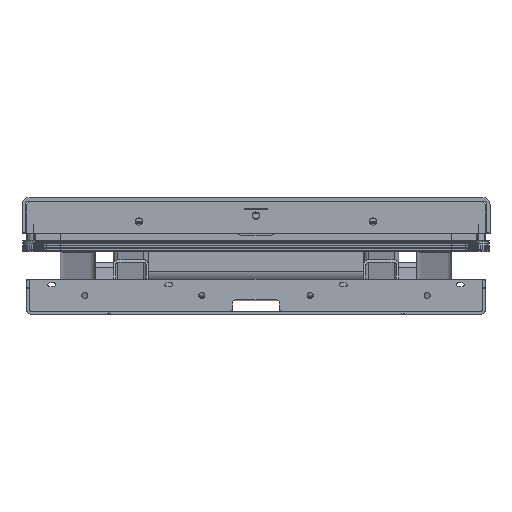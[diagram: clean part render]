
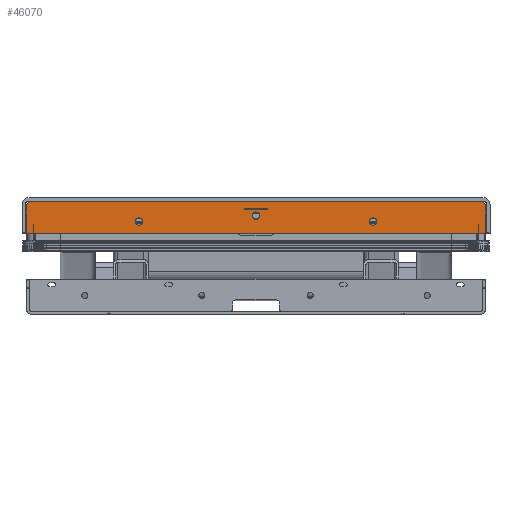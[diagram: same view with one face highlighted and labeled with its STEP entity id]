
A CAD part, front view. The second image highlights one B-rep face of the part: STEP entity #46070.
In plain terms, the highlighted planar face has unit normal (0, -1, 0) as drawn and (0, 0, -1) by its records, which use the part's own axes.
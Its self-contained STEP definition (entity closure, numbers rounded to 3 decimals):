
#1704=FACE_BOUND('',#6877,.T.);
#1705=FACE_BOUND('',#6878,.T.);
#1706=FACE_BOUND('',#6879,.T.);
#2379=PLANE('',#49855);
#4157=FACE_OUTER_BOUND('',#6876,.T.);
#6876=EDGE_LOOP('',(#35838,#35839,#35840,#35841,#35842,#35843,#35844,#35845,
#35846,#35847,#35848,#35849));
#6877=EDGE_LOOP('',(#35850));
#6878=EDGE_LOOP('',(#35851));
#6879=EDGE_LOOP('',(#35852));
#9548=CIRCLE('',#49854,1.);
#9549=CIRCLE('',#49856,1.);
#9550=CIRCLE('',#49857,1.);
#9551=CIRCLE('',#49858,1.);
#9552=CIRCLE('',#49859,1.);
#9553=CIRCLE('',#49860,1.);
#9554=CIRCLE('',#49861,6.25);
#9555=CIRCLE('',#49862,6.25);
#9556=CIRCLE('',#49863,6.25);
#12104=LINE('',#70490,#16549);
#12105=LINE('',#70494,#16550);
#12106=LINE('',#70498,#16551);
#12107=LINE('',#70502,#16552);
#12108=LINE('',#70506,#16553);
#12109=LINE('',#70509,#16554);
#16549=VECTOR('',#57466,10.);
#16550=VECTOR('',#57469,10.);
#16551=VECTOR('',#57472,10.);
#16552=VECTOR('',#57475,10.);
#16553=VECTOR('',#57478,10.);
#16554=VECTOR('',#57481,10.);
#21060=VERTEX_POINT('',#70483);
#21061=VERTEX_POINT('',#70485);
#21062=VERTEX_POINT('',#70489);
#21063=VERTEX_POINT('',#70491);
#21064=VERTEX_POINT('',#70493);
#21065=VERTEX_POINT('',#70495);
#21066=VERTEX_POINT('',#70497);
#21067=VERTEX_POINT('',#70499);
#21068=VERTEX_POINT('',#70501);
#21069=VERTEX_POINT('',#70503);
#21070=VERTEX_POINT('',#70505);
#21071=VERTEX_POINT('',#70507);
#21072=VERTEX_POINT('',#70510);
#21073=VERTEX_POINT('',#70512);
#21074=VERTEX_POINT('',#70514);
#26474=EDGE_CURVE('',#21060,#21061,#9548,.T.);
#26476=EDGE_CURVE('',#21060,#21062,#12104,.T.);
#26477=EDGE_CURVE('',#21063,#21062,#9549,.T.);
#26478=EDGE_CURVE('',#21064,#21063,#12105,.T.);
#26479=EDGE_CURVE('',#21065,#21064,#9550,.T.);
#26480=EDGE_CURVE('',#21065,#21066,#12106,.T.);
#26481=EDGE_CURVE('',#21067,#21066,#9551,.T.);
#26482=EDGE_CURVE('',#21067,#21068,#12107,.T.);
#26483=EDGE_CURVE('',#21069,#21068,#9552,.T.);
#26484=EDGE_CURVE('',#21070,#21069,#12108,.T.);
#26485=EDGE_CURVE('',#21071,#21070,#9553,.T.);
#26486=EDGE_CURVE('',#21071,#21061,#12109,.T.);
#26487=EDGE_CURVE('',#21072,#21072,#9554,.T.);
#26488=EDGE_CURVE('',#21073,#21073,#9555,.T.);
#26489=EDGE_CURVE('',#21074,#21074,#9556,.T.);
#35838=ORIENTED_EDGE('',*,*,#26474,.F.);
#35839=ORIENTED_EDGE('',*,*,#26476,.T.);
#35840=ORIENTED_EDGE('',*,*,#26477,.F.);
#35841=ORIENTED_EDGE('',*,*,#26478,.F.);
#35842=ORIENTED_EDGE('',*,*,#26479,.F.);
#35843=ORIENTED_EDGE('',*,*,#26480,.T.);
#35844=ORIENTED_EDGE('',*,*,#26481,.F.);
#35845=ORIENTED_EDGE('',*,*,#26482,.T.);
#35846=ORIENTED_EDGE('',*,*,#26483,.F.);
#35847=ORIENTED_EDGE('',*,*,#26484,.F.);
#35848=ORIENTED_EDGE('',*,*,#26485,.F.);
#35849=ORIENTED_EDGE('',*,*,#26486,.T.);
#35850=ORIENTED_EDGE('',*,*,#26487,.T.);
#35851=ORIENTED_EDGE('',*,*,#26488,.F.);
#35852=ORIENTED_EDGE('',*,*,#26489,.F.);
#46070=ADVANCED_FACE('',(#4157,#1704,#1705,#1706),#2379,.F.);
#49854=AXIS2_PLACEMENT_3D('',#70486,#57461,#57462);
#49855=AXIS2_PLACEMENT_3D('',#70488,#57464,#57465);
#49856=AXIS2_PLACEMENT_3D('',#70492,#57467,#57468);
#49857=AXIS2_PLACEMENT_3D('',#70496,#57470,#57471);
#49858=AXIS2_PLACEMENT_3D('',#70500,#57473,#57474);
#49859=AXIS2_PLACEMENT_3D('',#70504,#57476,#57477);
#49860=AXIS2_PLACEMENT_3D('',#70508,#57479,#57480);
#49861=AXIS2_PLACEMENT_3D('',#70511,#57482,#57483);
#49862=AXIS2_PLACEMENT_3D('',#70513,#57484,#57485);
#49863=AXIS2_PLACEMENT_3D('',#70515,#57486,#57487);
#57461=DIRECTION('center_axis',(0.,0.,1.));
#57462=DIRECTION('ref_axis',(0.707,0.707,0.));
#57464=DIRECTION('center_axis',(0.,0.,1.));
#57465=DIRECTION('ref_axis',(1.,0.,0.));
#57466=DIRECTION('',(0.,-1.,0.));
#57467=DIRECTION('center_axis',(0.,0.,1.));
#57468=DIRECTION('ref_axis',(0.924,-0.383,0.));
#57469=DIRECTION('',(0.707,0.707,0.));
#57470=DIRECTION('center_axis',(0.,0.,1.));
#57471=DIRECTION('ref_axis',(0.383,-0.924,0.));
#57472=DIRECTION('',(-1.,0.,0.));
#57473=DIRECTION('center_axis',(0.,0.,1.));
#57474=DIRECTION('ref_axis',(-0.383,-0.924,0.));
#57475=DIRECTION('',(-0.707,0.707,0.));
#57476=DIRECTION('center_axis',(0.,0.,1.));
#57477=DIRECTION('ref_axis',(-0.924,-0.383,0.));
#57478=DIRECTION('',(0.,-1.,0.));
#57479=DIRECTION('center_axis',(0.,0.,1.));
#57480=DIRECTION('ref_axis',(-0.707,0.707,0.));
#57481=DIRECTION('',(1.,0.,0.));
#57482=DIRECTION('center_axis',(0.,0.,1.));
#57483=DIRECTION('ref_axis',(1.,0.,0.));
#57484=DIRECTION('center_axis',(0.,0.,-1.));
#57485=DIRECTION('ref_axis',(-1.,0.,0.));
#57486=DIRECTION('center_axis',(0.,0.,-1.));
#57487=DIRECTION('ref_axis',(-1.,0.,0.));
#70483=CARTESIAN_POINT('',(393.,26.5,0.));
#70485=CARTESIAN_POINT('',(392.,27.5,0.));
#70486=CARTESIAN_POINT('Origin',(392.,26.5,0.));
#70488=CARTESIAN_POINT('Origin',(196.5,0.,0.));
#70489=CARTESIAN_POINT('',(393.,-21.086,0.));
#70490=CARTESIAN_POINT('',(393.,27.5,0.));
#70491=CARTESIAN_POINT('',(392.707,-21.793,0.));
#70492=CARTESIAN_POINT('Origin',(392.,-21.086,0.));
#70493=CARTESIAN_POINT('',(387.293,-27.207,0.));
#70494=CARTESIAN_POINT('',(347.75,-66.75,0.));
#70495=CARTESIAN_POINT('',(386.586,-27.5,0.));
#70496=CARTESIAN_POINT('Origin',(386.586,-26.5,0.));
#70497=CARTESIAN_POINT('',(-386.586,-27.5,0.));
#70498=CARTESIAN_POINT('',(393.,-27.5,0.));
#70499=CARTESIAN_POINT('',(-387.293,-27.207,0.));
#70500=CARTESIAN_POINT('Origin',(-386.586,-26.5,0.));
#70501=CARTESIAN_POINT('',(-392.707,-21.793,0.));
#70502=CARTESIAN_POINT('',(-347.75,-66.75,0.));
#70503=CARTESIAN_POINT('',(-393.,-21.086,0.));
#70504=CARTESIAN_POINT('Origin',(-392.,-21.086,0.));
#70505=CARTESIAN_POINT('',(-393.,26.5,0.));
#70506=CARTESIAN_POINT('',(-393.,27.5,0.));
#70507=CARTESIAN_POINT('',(-392.,27.5,0.));
#70508=CARTESIAN_POINT('Origin',(-392.,26.5,0.));
#70509=CARTESIAN_POINT('',(0.,27.5,0.));
#70510=CARTESIAN_POINT('',(206.25,7.5,0.));
#70511=CARTESIAN_POINT('Origin',(200.,7.5,0.));
#70512=CARTESIAN_POINT('',(-206.25,7.5,0.));
#70513=CARTESIAN_POINT('Origin',(-200.,7.5,0.));
#70514=CARTESIAN_POINT('',(0.,-8.75,0.));
#70515=CARTESIAN_POINT('Origin',(0.,-2.5,
0.));
